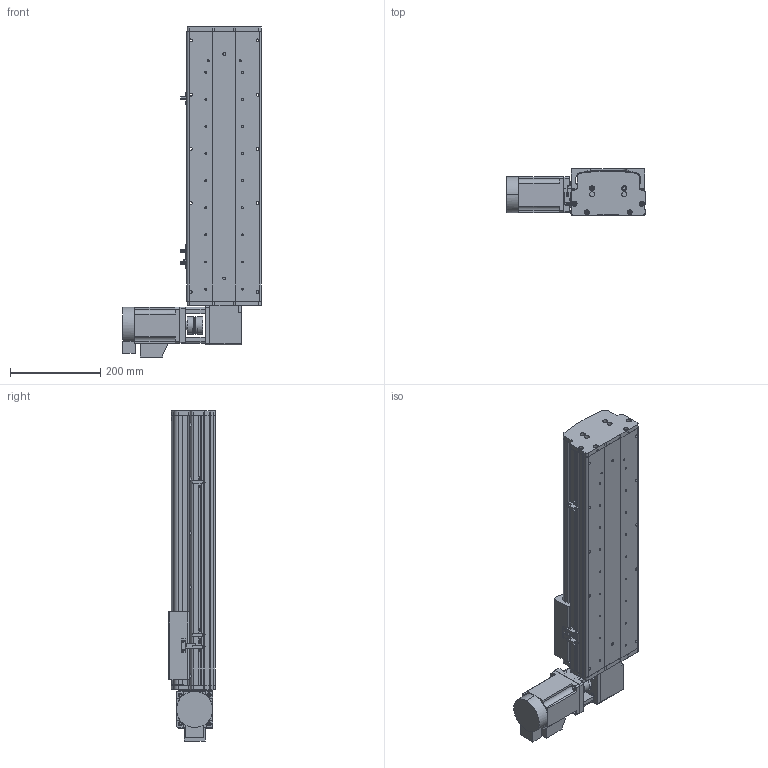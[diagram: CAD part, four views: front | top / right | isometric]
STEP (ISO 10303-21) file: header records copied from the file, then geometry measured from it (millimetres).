
FILE_DESCRIPTION (( 'STEP AP214' ), '1' );
FILE_NAME ('KSD165B-S350-MRT-CM .STEP', '2017-10-17T01:06:53', ( '微软用户' ), ( '微软中国' ), 'SwSTEP 2.0', 'SolidWorks 2014', '' );
FILE_SCHEMA (( 'AUTOMOTIVE_DESIGN' ));
Length unit declared in the file: millimetre
Products named in the file (16): KSD165模组-同步带-防撞垫2; KSD165模组同步带-防撞垫1; KSD165耀郪-ヶ傷啣1-肮祭湍; KSD165模组-后端板1-同步带; 130宽马达安装板1-带电机座750W（1）; KSD165模组-同步带滑动座-最新版; KSD165B-S350-MRT-CM ; 165宽马达安装板同步带左-改; KSD165模组-同步带防尘盖1-350行程-最新版; KSD165模组同步带底板-350行程-最新; 拸秶雄ん750W侜督萇儂; 165宽安装板同步带带电机座750W; C39ㄜ1419WP; U倰嫖萇假蚾璃; U倰嫖萇EEㄜSX672; 覜茼え68遵圉猾敕
Assembly tree (19 placements, depth 2):
  KSD165B-S350-MRT-CM 
    KSD165模组-同步带滑动座-最新版
    130宽马达安装板1-带电机座750W（1）
    KSD165模组-后端板1-同步带
    KSD165耀郪-ヶ傷啣1-肮祭湍
    KSD165模组同步带-防撞垫1
    KSD165模组-同步带-防撞垫2
    覜茼え68遵圉猾敕
    U倰嫖萇EEㄜSX672  x3
    U倰嫖萇假蚾璃  x3
    C39ㄜ1419WP
    165宽安装板同步带带电机座750W
    拸秶雄ん750W侜督萇儂
    KSD165模组同步带底板-350行程-最新
    KSD165模组-同步带防尘盖1-350行程-最新版
    165宽马达安装板同步带左-改
Bounding box: 307.5 x 104 x 731.06 mm (x, y, z)
Volume: 4955259.5 mm3; surface area: 1089947.3 mm2
Topology: 20 solids, 21 shells, 1414 faces, 3912 edges, 2529 vertices
Faces by surface type: cylinder 749, plane 571, cone 94
Entity records: 44147 total; most frequent: CARTESIAN_POINT 9247, DIRECTION 6902, ORIENTED_EDGE 6476, EDGE_CURVE 3238, AXIS2_PLACEMENT_3D 2608, VERTEX_POINT 2121, LINE 1686, VECTOR 1686
